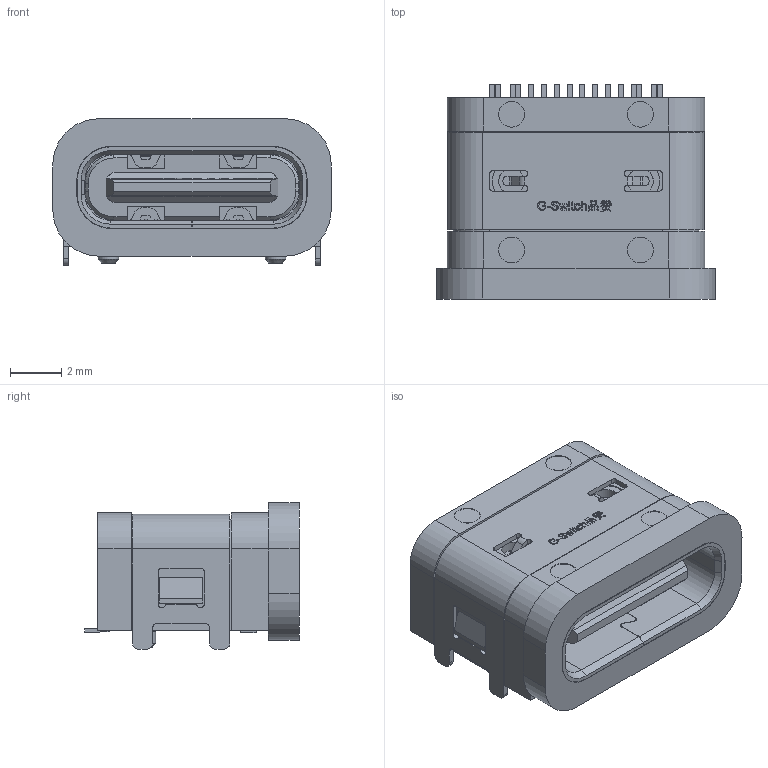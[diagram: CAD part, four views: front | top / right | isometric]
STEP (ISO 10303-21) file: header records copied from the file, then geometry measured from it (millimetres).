
FILE_DESCRIPTION (( 'STEP AP203' ), '1' );
FILE_NAME ('GT-USB-9070B.STEP', '2025-01-07T09:57:32', ( '' ), ( '' ), 'SwSTEP 2.0', 'SolidWorks 2023', '' );
FILE_SCHEMA (( 'CONFIG_CONTROL_DESIGN' ));
Length unit declared in the file: millimetre
Products named in the file (1): GT-USB-9070B
Bounding box: 10.85 x 8.36 x 5.71 mm (x, y, z)
Volume: 260.3 mm3; surface area: 983.5 mm2
Topology: 2 solids, 2 shells, 1169 faces, 3278 edges, 2142 vertices
Faces by surface type: plane 782, cylinder 272, bspline 91, cone 18, torus 6
Entity records: 41648 total; most frequent: CARTESIAN_POINT 11838, ORIENTED_EDGE 6518, DIRECTION 5673, EDGE_CURVE 3259, VECTOR 2431, LINE 2431, VERTEX_POINT 2142, AXIS2_PLACEMENT_3D 1621
